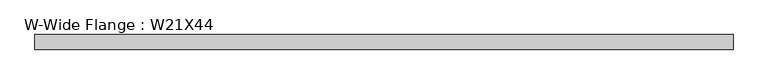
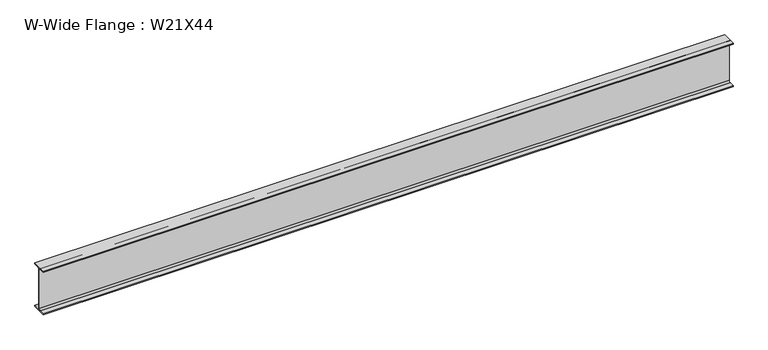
"""IFC4 building model written with IfcOpenShell, lengths in millimetres: beam geometry, W-Wide Flange : W21X44."""

from ifc_helpers import new_model, si_unit, point, frame, frame_2d, origin, place, context, project, spatial, polyline, circle_curve, trimmed, segment, composite_curve, outline, extrude, source, transform, mapped, element, save


def w_wide_flange_w21x44_8a3b57d7(model_context):
    return source(origin(), model_context, "Body", "SweptSolid", [
        extrude(outline(composite_curve([segment(polyline([(82.55, -251.46), (82.55, -262.89), (-82.55, -262.89), (-82.55, -251.46), (-21.59, -251.46)]), True, "CONTINUOUS"), segment(trimmed(circle_curve(frame_2d((-21.59, -234.315)), 17.145), [point((-21.59, -251.46))], [point((-4.445, -234.315))], True, "CARTESIAN"), True, "CONTINUOUS"), segment(polyline([(-4.445, -234.315), (-4.445, 234.315)]), True, "CONTINUOUS"), segment(trimmed(circle_curve(frame_2d((-21.59, 234.315)), 17.145), [point((-4.445, 234.315))], [point((-21.59, 251.46))], True, "CARTESIAN"), True, "CONTINUOUS"), segment(polyline([(-21.59, 251.46), (-82.55, 251.46), (-82.55, 262.89), (82.55, 262.89), (82.55, 251.46), (21.59, 251.46)]), True, "CONTINUOUS"), segment(trimmed(circle_curve(frame_2d((21.59, 234.315)), 17.145), [point((21.59, 251.46))], [point((4.445, 234.315))], True, "CARTESIAN"), True, "CONTINUOUS"), segment(polyline([(4.445, 234.315), (4.445, -234.315)]), True, "CONTINUOUS"), segment(trimmed(circle_curve(frame_2d((21.59, -234.315)), 17.145), [point((4.445, -234.315))], [point((21.59, -251.46))], True, "CARTESIAN"), True, "CONTINUOUS"), segment(polyline([(21.59, -251.46), (82.55, -251.46)]), True, "CONTINUOUS")], self_intersect=False)), frame((-3906.3890318, 0.0, 0.0), z_axis=(1.0, 0.0, 0.0), x_axis=(0.0, 1.0, 0.0)), (0.0, 0.0, 1.0), 7873.3579698),
    ])


if __name__ == "__main__":
    model = new_model("IFC4")
    model_context = context("Model", 3, world=origin())
    ifc_project = project(units=[si_unit("LENGTHUNIT", "METRE", prefix="MILLI")], contexts=[model_context])
    site = spatial("IfcSite", under=ifc_project)
    building = spatial("IfcBuilding", under=site)
    placement = place(None, origin())
    w_wide_flange_w21x44_shape = w_wide_flange_w21x44_8a3b57d7(model_context)
    element("IfcBeam", 1, ObjectType="W-Wide Flange : W21X44", at=placement, inside=building, context=model_context, shape_type="MappedRepresentation", body=[
        mapped(w_wide_flange_w21x44_shape, transform((0.0, 0.0, 0.0), x_axis=(1.0, 0.0, 0.0), y_axis=(0.0, 1.0, 0.0), z_axis=(0.0, 0.0, 1.0))),
    ])
    save(model, "model.ifc")
